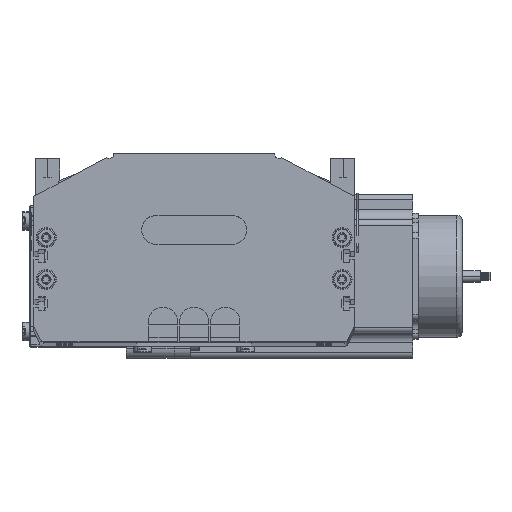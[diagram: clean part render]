
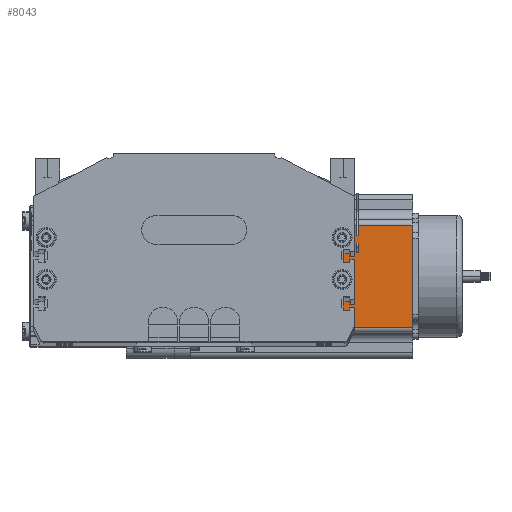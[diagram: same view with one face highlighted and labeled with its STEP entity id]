
A CAD part, top view. The second image highlights one B-rep face of the part: STEP entity #8043.
In plain terms, the highlighted planar face has unit normal (0, 0, 1) as drawn and (0, -1, 0) by its records, which use the part's own axes.
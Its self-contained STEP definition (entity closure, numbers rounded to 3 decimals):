
#8036 = VERTEX_POINT ( 'NONE', #46598 ) ;
#8037 = EDGE_CURVE ( 'NONE', #8040, #8041, #46590, .T. ) ;
#8040 = VERTEX_POINT ( 'NONE', #46581 ) ;
#8041 = VERTEX_POINT ( 'NONE', #46592 ) ;
#8043 = ADVANCED_FACE ( 'NONE', ( #46579 ), #46577, .F. ) ;
#8045 = VERTEX_POINT ( 'NONE', #46591 ) ;
#8046 = ORIENTED_EDGE ( 'NONE', *, *, #8037, .T. ) ;
#8051 = ORIENTED_EDGE ( 'NONE', *, *, #8054, .T. ) ;
#8053 = EDGE_LOOP ( 'NONE', ( #8046, #8051, #8094, #8101 ) ) ;
#8054 = EDGE_CURVE ( 'NONE', #8041, #8036, #46593, .T. ) ;
#8091 = EDGE_CURVE ( 'NONE', #8045, #8036, #46817, .T. ) ;
#8094 = ORIENTED_EDGE ( 'NONE', *, *, #8091, .F. ) ;
#8095 = EDGE_CURVE ( 'NONE', #8045, #8040, #46903, .T. ) ;
#8101 = ORIENTED_EDGE ( 'NONE', *, *, #8095, .T. ) ;
#46403 = DIRECTION ( 'NONE',  ( 0., 0., 1. ) ) ;
#46404 = CARTESIAN_POINT ( 'NONE',  ( 69.74, 0., 116.5 ) ) ;
#46453 = DIRECTION ( 'NONE',  ( 0., 0., 1. ) ) ;
#46517 = VECTOR ( 'NONE', #46403, 1000. ) ;
#46570 = AXIS2_PLACEMENT_3D ( 'NONE', #46575, #46599, #46453 ) ;
#46575 = CARTESIAN_POINT ( 'NONE',  ( 0., 0., 116.5 ) ) ;
#46577 = PLANE ( 'NONE',  #46570 ) ;
#46579 = FACE_OUTER_BOUND ( 'NONE', #8053, .T. ) ;
#46581 = CARTESIAN_POINT ( 'NONE',  ( 16.16, 0., 0. ) ) ;
#46587 = DIRECTION ( 'NONE',  ( 1., 0., 0. ) ) ;
#46588 = VECTOR ( 'NONE', #46587, 1000. ) ;
#46589 = CARTESIAN_POINT ( 'NONE',  ( 0., 0., 0. ) ) ;
#46590 = LINE ( 'NONE', #46589, #46588 ) ;
#46591 = CARTESIAN_POINT ( 'NONE',  ( 16.16, 0., 116.5 ) ) ;
#46592 = CARTESIAN_POINT ( 'NONE',  ( 69.74, 0., 0. ) ) ;
#46593 = LINE ( 'NONE', #46404, #46517 ) ;
#46598 = CARTESIAN_POINT ( 'NONE',  ( 69.74, 0., 116.5 ) ) ;
#46599 = DIRECTION ( 'NONE',  ( 0., 1., 0. ) ) ;
#46714 = VECTOR ( 'NONE', #46901, 1000. ) ;
#46817 = LINE ( 'NONE', #46904, #46900 ) ;
#46899 = DIRECTION ( 'NONE',  ( 1., 0., 0. ) ) ;
#46900 = VECTOR ( 'NONE', #46899, 1000. ) ;
#46901 = DIRECTION ( 'NONE',  ( 0., 0., -1. ) ) ;
#46902 = CARTESIAN_POINT ( 'NONE',  ( 16.16, 0., 116.5 ) ) ;
#46903 = LINE ( 'NONE', #46902, #46714 ) ;
#46904 = CARTESIAN_POINT ( 'NONE',  ( 0., 0., 116.5 ) ) ;
